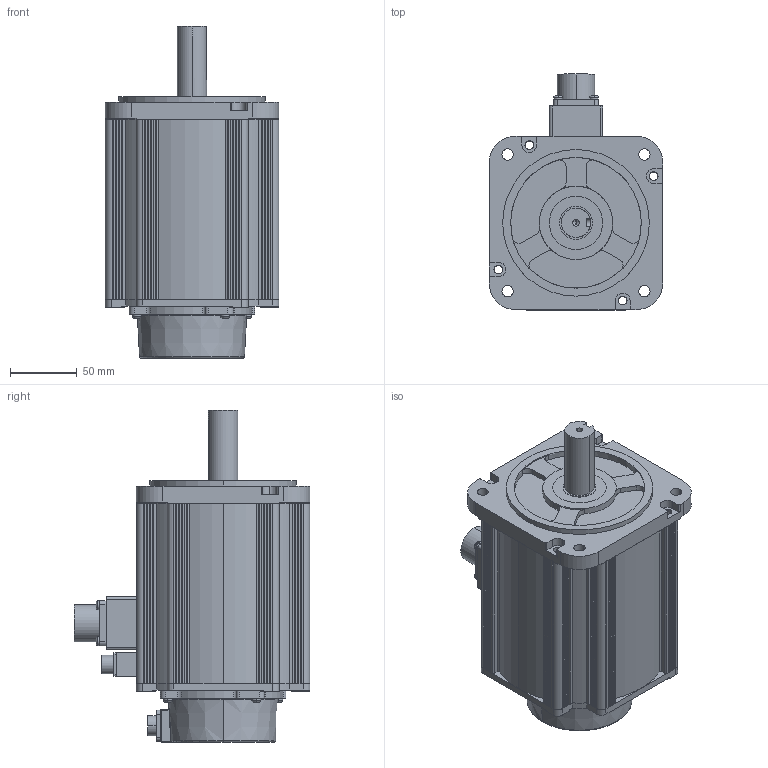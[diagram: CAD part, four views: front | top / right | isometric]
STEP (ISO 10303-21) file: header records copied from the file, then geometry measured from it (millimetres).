
FILE_DESCRIPTION (( 'STEP AP203' ), '1' );
FILE_NAME ('130E-11515 - Z.STEP', '2024-09-05T11:16:00', ( '' ), ( '' ), 'SwSTEP 2.0', 'SolidWorks 2018', '' );
FILE_SCHEMA (( 'CONFIG_CONTROL_DESIGN' ));
Length unit declared in the file: millimetre
Products named in the file (12): 130A綴裔潠謹; 100惕掅菁釱; 蚐猾; XS12J3Z; 橈勤硉晤鎢ん誘欶  S13E.10-01; 18-10; 130Aǰ; 130A諉盄釱-1; 堤粣; 130E-11515 - Z; 儂褲-11.5N.M -Z; SC-CMV1-R10P-E
Assembly tree (11 placements, depth 2):
  130E-11515 - Z
    130A綴裔潠謹
    130A諉盄釱-1
    130Aǰ
    堤粣
    蚐猾
    XS12J3Z
    100惕掅菁釱
    儂褲-11.5N.M -Z
    18-10
    SC-CMV1-R10P-E
    橈勤硉晤鎢ん誘欶  S13E.10-01
Bounding box: 130.2 x 176.9 x 249 mm (x, y, z)
Volume: 769274 mm3; surface area: 331525.4 mm2
Topology: 11 solids, 15 shells, 975 faces, 2606 edges, 1701 vertices
Faces by surface type: plane 537, cylinder 357, torus 45, sphere 18, cone 10, bspline 8
Entity records: 32640 total; most frequent: CARTESIAN_POINT 6397, DIRECTION 5326, ORIENTED_EDGE 5132, EDGE_CURVE 2566, AXIS2_PLACEMENT_3D 1822, VERTEX_POINT 1683, LINE 1682, VECTOR 1682
